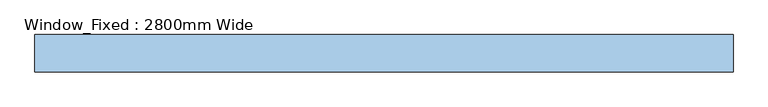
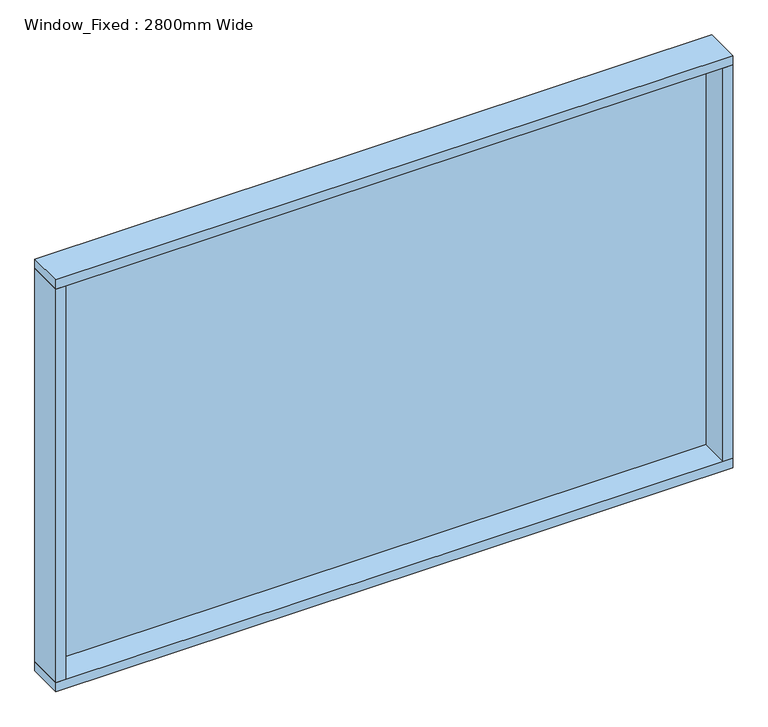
"""IFC4 building model written with IfcOpenShell, lengths in millimetres: window geometry, Window_Fixed : 2800mm Wide."""

from ifc_helpers import new_model, si_unit, frame, origin, place, context, project, spatial, polyline, outline, extrude, source, transform, mapped, element, save


def window_fixed_2800mm_wide_54336a60(model_context):
    return source(origin(), model_context, "Body", "SweptSolid", [
        extrude(outline(polyline([(1360.0, 110.0), (1360.0, 98.0), (-1360.0, 98.0), (-1360.0, 110.0), (1360.0, 110.0)])), frame((0.0, 0.0, 290.0), z_axis=(0.0, 0.0, 1.0), x_axis=(1.0, 0.0, 0.0)), (0.0, 0.0, 1.0), 1720.0),
        extrude(outline(polyline([(1400.0, 125.0), (1400.0, -25.0), (-1400.0, -25.0), (-1400.0, 125.0), (1400.0, 125.0)])), frame((0.0, 0.0, 2010.0), z_axis=(0.0, 0.0, 1.0), x_axis=(1.0, 0.0, 0.0)), (0.0, 0.0, 1.0), 40.0),
        extrude(outline(polyline([(1400.0, 125.0), (1400.0, -25.0), (-1400.0, -25.0), (-1400.0, 125.0), (1400.0, 125.0)])), frame((0.0, 0.0, 250.0), z_axis=(0.0, 0.0, 1.0), x_axis=(1.0, 0.0, 0.0)), (0.0, 0.0, 1.0), 40.0),
        extrude(outline(polyline([(-1360.0, -25.0), (-1400.0, -25.0), (-1400.0, 125.0), (-1360.0, 125.0), (-1360.0, -25.0)])), frame((0.0, 0.0, 290.0), z_axis=(0.0, 0.0, 1.0), x_axis=(1.0, 0.0, 0.0)), (0.0, 0.0, 1.0), 1720.0),
        extrude(outline(polyline([(1360.0, -25.0), (1360.0, 125.0), (1400.0, 125.0), (1400.0, -25.0), (1360.0, -25.0)])), frame((0.0, 0.0, 290.0), z_axis=(0.0, 0.0, 1.0), x_axis=(1.0, 0.0, 0.0)), (0.0, 0.0, 1.0), 1720.0),
    ])


if __name__ == "__main__":
    model = new_model("IFC4")
    model_context = context("Model", 3, world=origin())
    ifc_project = project(units=[si_unit("LENGTHUNIT", "METRE", prefix="MILLI")], contexts=[model_context])
    site = spatial("IfcSite", under=ifc_project)
    building = spatial("IfcBuilding", under=site)
    placement = place(None, origin())
    window_fixed_2800mm_wide_shape = window_fixed_2800mm_wide_54336a60(model_context)
    element("IfcWindow", 1, ObjectType="Window_Fixed : 2800mm Wide", at=placement, inside=building, context=model_context, shape_type="MappedRepresentation", body=[
        mapped(window_fixed_2800mm_wide_shape, transform((0.0, 0.0, 0.0), x_axis=(1.0, 0.0, 0.0), y_axis=(0.0, 1.0, 0.0), z_axis=(0.0, 0.0, 1.0))),
    ])
    save(model, "model.ifc")
